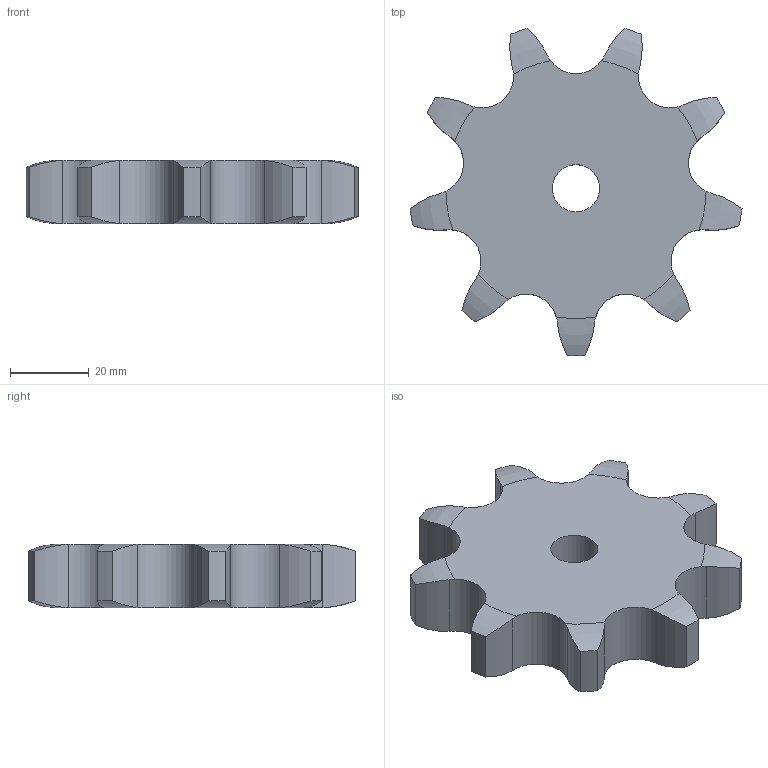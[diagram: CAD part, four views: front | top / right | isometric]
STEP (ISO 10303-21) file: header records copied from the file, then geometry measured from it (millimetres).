
FILE_DESCRIPTION((''),'2;1');
FILE_NAME('500-501-0009_PRT','2021-02-12T',('Brieden'),('Brieden'),'PRO/ENGINEER BY PARAMETRIC TECHNOLOGY CORPORATION, 2010160','PRO/ENGINEER BY PARAMETRIC TECHNOLOGY CORPORATION, 2010160','');
FILE_SCHEMA(('AUTOMOTIVE_DESIGN { 1 0 10303 214 1 1 1 1 }'));
Length unit declared in the file: millimetre
Products named in the file (1): 500-501-0009_PRT
Bounding box: 84.36 x 83.13 x 16.2 mm (x, y, z)
Volume: 58812.1 mm3; surface area: 13438.2 mm2
Topology: 1 solids, 1 shells, 58 faces, 168 edges, 112 vertices
Faces by surface type: cylinder 38, torus 18, plane 2
Entity records: 2760 total; most frequent: CARTESIAN_POINT 737, ORIENTED_EDGE 336, DIRECTION 270, PRESENTATION_STYLE_ASSIGNMENT 169, STYLED_ITEM 169, CURVE_STYLE 168, EDGE_CURVE 168, AXIS2_PLACEMENT_3D 116
